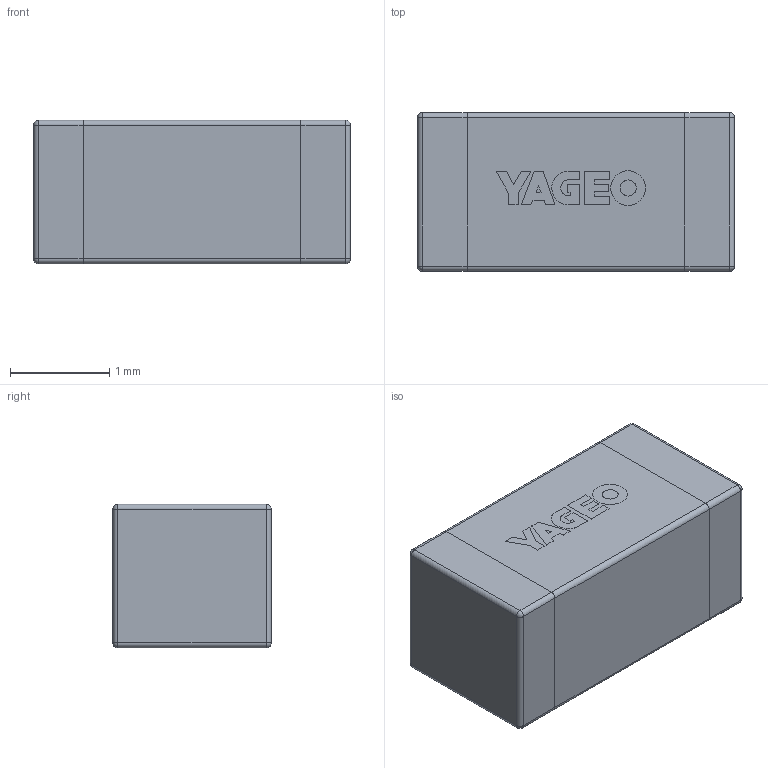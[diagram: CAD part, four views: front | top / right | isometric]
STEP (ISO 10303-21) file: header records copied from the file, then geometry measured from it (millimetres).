
FILE_DESCRIPTION(/* description */ (''),/* implementation_level */ '2;1');
FILE_NAME(/* name */ 'K:\KH_3D_lib\Yageo\CAP\1206\1206_1.45.stp',/* time_stamp */ '2020-11-20T18:19:02+02:00',/* author */ ('khaled'),/* organization */ (''),/* preprocessor_version */ 'ST-DEVELOPER v17.2',/* originating_system */ 'Autodesk Inventor 2019',/* authorisation */ '');
FILE_SCHEMA (('AUTOMOTIVE_DESIGN { 1 0 10303 214 3 1 1 }'));
Length unit declared in the file: millimetre
Products named in the file (4): cap; body; side; Yageo
Assembly tree (4 placements, depth 2):
  cap
    body
    side  x2
    Yageo
Bounding box: 3.2 x 1.6 x 1.45 mm (x, y, z)
Volume: 7.4 mm3; surface area: 34.5 mm2
Topology: 12 solids, 12 shells, 167 faces, 405 edges, 262 vertices
Faces by surface type: plane 109, bspline 30, cylinder 20, sphere 8
Entity records: 4975 total; most frequent: CARTESIAN_POINT 1436, ORIENTED_EDGE 738, DIRECTION 587, EDGE_CURVE 369, LINE 285, VECTOR 285, VERTEX_POINT 242, EDGE_LOOP 157
